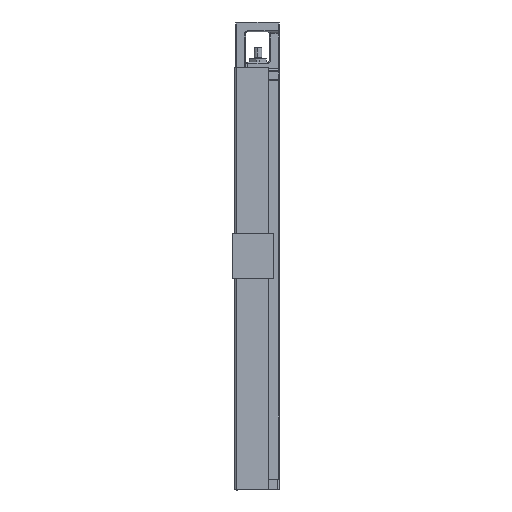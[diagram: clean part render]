
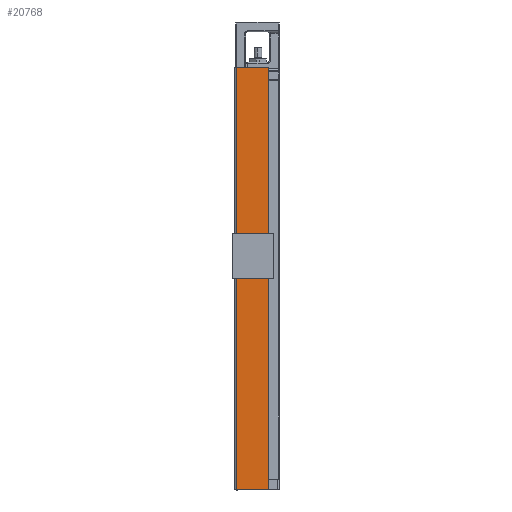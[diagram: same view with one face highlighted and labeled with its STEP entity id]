
A CAD part, left-side view. The second image highlights one B-rep face of the part: STEP entity #20768.
In plain terms, the highlighted planar face has unit normal (-1, 0, 0).
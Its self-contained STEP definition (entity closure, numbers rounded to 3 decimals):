
#182 = CARTESIAN_POINT ( 'NONE',  ( -51., 43.5, -250.8 ) ) ;
#768 = DIRECTION ( 'NONE',  ( 0., -1., 0. ) ) ;
#1081 = VECTOR ( 'NONE', #24122, 1000. ) ;
#2743 = EDGE_CURVE ( 'NONE', #60406, #47499, #20233, .T. ) ;
#5366 = PLANE ( 'NONE',  #13417 ) ;
#5604 = VERTEX_POINT ( 'NONE', #35851 ) ;
#6471 = ORIENTED_EDGE ( 'NONE', *, *, #9462, .F. ) ;
#9462 = EDGE_CURVE ( 'NONE', #5604, #60406, #50440, .T. ) ;
#10183 = DIRECTION ( 'NONE',  ( -1., 0., 0. ) ) ;
#10934 = VERTEX_POINT ( 'NONE', #16112 ) ;
#11953 = VECTOR ( 'NONE', #47240, 1000. ) ;
#12251 = ORIENTED_EDGE ( 'NONE', *, *, #57719, .T. ) ;
#13417 = AXIS2_PLACEMENT_3D ( 'NONE', #38903, #10183, #43685 ) ;
#13468 = LINE ( 'NONE', #61649, #11953 ) ;
#16112 = CARTESIAN_POINT ( 'NONE',  ( -51., 11., -411. ) ) ;
#16426 = EDGE_LOOP ( 'NONE', ( #12251, #37521, #6471, #19290 ) ) ;
#19290 = ORIENTED_EDGE ( 'NONE', *, *, #32583, .T. ) ;
#20233 = LINE ( 'NONE', #49440, #44083 ) ;
#20768 = ADVANCED_FACE ( 'NONE', ( #42848 ), #5366, .T. ) ;
#24122 = DIRECTION ( 'NONE',  ( 0., 0., 1. ) ) ;
#32583 = EDGE_CURVE ( 'NONE', #5604, #10934, #60245, .T. ) ;
#35851 = CARTESIAN_POINT ( 'NONE',  ( -51., 43.5, -411. ) ) ;
#37521 = ORIENTED_EDGE ( 'NONE', *, *, #2743, .F. ) ;
#38903 = CARTESIAN_POINT ( 'NONE',  ( -51., 48., -250.8 ) ) ;
#42848 = FACE_OUTER_BOUND ( 'NONE', #16426, .T. ) ;
#43685 = DIRECTION ( 'NONE',  ( 0., 0., 1. ) ) ;
#44083 = VECTOR ( 'NONE', #49588, 1000. ) ;
#47240 = DIRECTION ( 'NONE',  ( 0., 0., 1. ) ) ;
#47499 = VERTEX_POINT ( 'NONE', #55155 ) ;
#47725 = VECTOR ( 'NONE', #768, 1000. ) ;
#49440 = CARTESIAN_POINT ( 'NONE',  ( -51., 44.5, 13.5 ) ) ;
#49588 = DIRECTION ( 'NONE',  ( 0., -1., 0. ) ) ;
#50440 = LINE ( 'NONE', #182, #1081 ) ;
#53052 = CARTESIAN_POINT ( 'NONE',  ( -51., 43.5, 13.5 ) ) ;
#55155 = CARTESIAN_POINT ( 'NONE',  ( -51., 11., 13.5 ) ) ;
#57719 = EDGE_CURVE ( 'NONE', #10934, #47499, #13468, .T. ) ;
#57944 = CARTESIAN_POINT ( 'NONE',  ( -51., 22., -411. ) ) ;
#60245 = LINE ( 'NONE', #57944, #47725 ) ;
#60406 = VERTEX_POINT ( 'NONE', #53052 ) ;
#61649 = CARTESIAN_POINT ( 'NONE',  ( -51., 11., -250.8 ) ) ;
